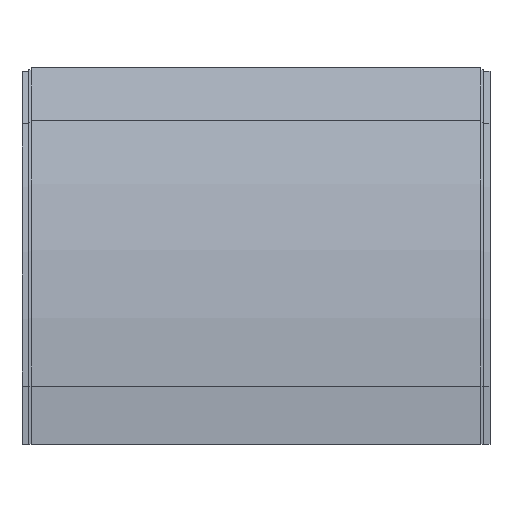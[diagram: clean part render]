
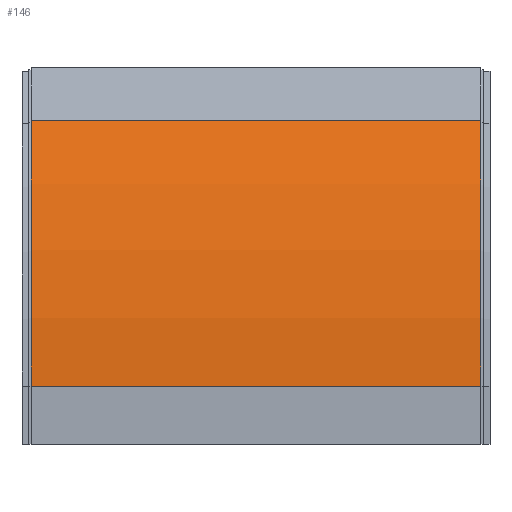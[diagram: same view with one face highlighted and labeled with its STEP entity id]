
A CAD part, front view. The second image highlights one B-rep face of the part: STEP entity #146.
In plain terms, the highlighted cylindrical face has radius 568.25 mm (diameter 1136.5 mm), a partial arc.
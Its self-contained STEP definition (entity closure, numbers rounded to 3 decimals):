
#14 = VERTEX_POINT ( 'NONE', #62 ) ;
#62 = CARTESIAN_POINT ( 'NONE',  ( 203.2, -15.009, 292.653 ) ) ;
#101 = EDGE_CURVE ( 'NONE', #256, #14, #1225, .T. ) ;
#146 = ADVANCED_FACE ( 'NONE', ( #865 ), #1095, .T. ) ;
#187 = CARTESIAN_POINT ( 'NONE',  ( 0., 500., 52.5 ) ) ;
#198 = AXIS2_PLACEMENT_3D ( 'NONE', #1132, #507, #1049 ) ;
#236 = EDGE_LOOP ( 'NONE', ( #553, #1387, #438, #1207 ) ) ;
#256 = VERTEX_POINT ( 'NONE', #965 ) ;
#304 = VERTEX_POINT ( 'NONE', #451 ) ;
#311 = DIRECTION ( 'NONE',  ( 0., 0., 1. ) ) ;
#313 = EDGE_CURVE ( 'NONE', #828, #256, #882, .T. ) ;
#338 = CARTESIAN_POINT ( 'NONE',  ( -203.2, -15.009, 292.653 ) ) ;
#356 = DIRECTION ( 'NONE',  ( 1., 0., 0. ) ) ;
#438 = ORIENTED_EDGE ( 'NONE', *, *, #743, .F. ) ;
#451 = CARTESIAN_POINT ( 'NONE',  ( -203.2, -15.009, 292.653 ) ) ;
#507 = DIRECTION ( 'NONE',  ( -1., 0., 0. ) ) ;
#553 = ORIENTED_EDGE ( 'NONE', *, *, #313, .T. ) ;
#642 = DIRECTION ( 'NONE',  ( -1., 0., 0. ) ) ;
#670 = DIRECTION ( 'NONE',  ( 1., 0., 0. ) ) ;
#697 = CARTESIAN_POINT ( 'NONE',  ( -203.2, -68.25, 52.5 ) ) ;
#743 = EDGE_CURVE ( 'NONE', #304, #14, #1317, .T. ) ;
#745 = VECTOR ( 'NONE', #356, 1000. ) ;
#828 = VERTEX_POINT ( 'NONE', #697 ) ;
#865 = FACE_OUTER_BOUND ( 'NONE', #236, .T. ) ;
#872 = DIRECTION ( 'NONE',  ( 0., 0., 1. ) ) ;
#882 = LINE ( 'NONE', #1300, #1067 ) ;
#941 = AXIS2_PLACEMENT_3D ( 'NONE', #1247, #642, #311 ) ;
#965 = CARTESIAN_POINT ( 'NONE',  ( 203.2, -68.25, 52.5 ) ) ;
#1049 = DIRECTION ( 'NONE',  ( 0., 0., 1. ) ) ;
#1061 = DIRECTION ( 'NONE',  ( -1., 0., 0. ) ) ;
#1067 = VECTOR ( 'NONE', #670, 1000. ) ;
#1095 = CYLINDRICAL_SURFACE ( 'NONE', #1366, 568.25 ) ;
#1099 = CIRCLE ( 'NONE', #198, 568.25 ) ;
#1113 = EDGE_CURVE ( 'NONE', #828, #304, #1099, .T. ) ;
#1132 = CARTESIAN_POINT ( 'NONE',  ( -203.2, 500., 52.5 ) ) ;
#1207 = ORIENTED_EDGE ( 'NONE', *, *, #1113, .F. ) ;
#1225 = CIRCLE ( 'NONE', #941, 568.25 ) ;
#1247 = CARTESIAN_POINT ( 'NONE',  ( 203.2, 500., 52.5 ) ) ;
#1300 = CARTESIAN_POINT ( 'NONE',  ( -203.2, -68.25, 52.5 ) ) ;
#1317 = LINE ( 'NONE', #338, #745 ) ;
#1366 = AXIS2_PLACEMENT_3D ( 'NONE', #187, #1061, #872 ) ;
#1387 = ORIENTED_EDGE ( 'NONE', *, *, #101, .T. ) ;
